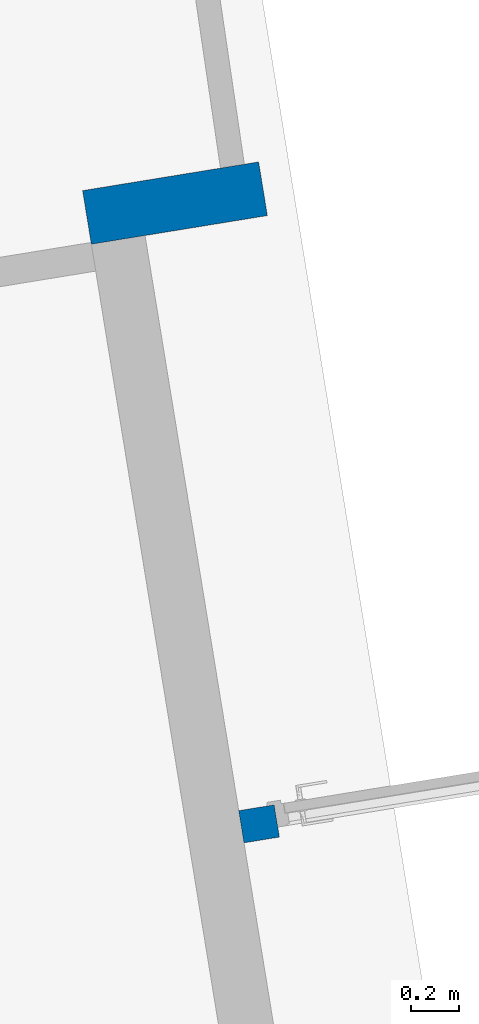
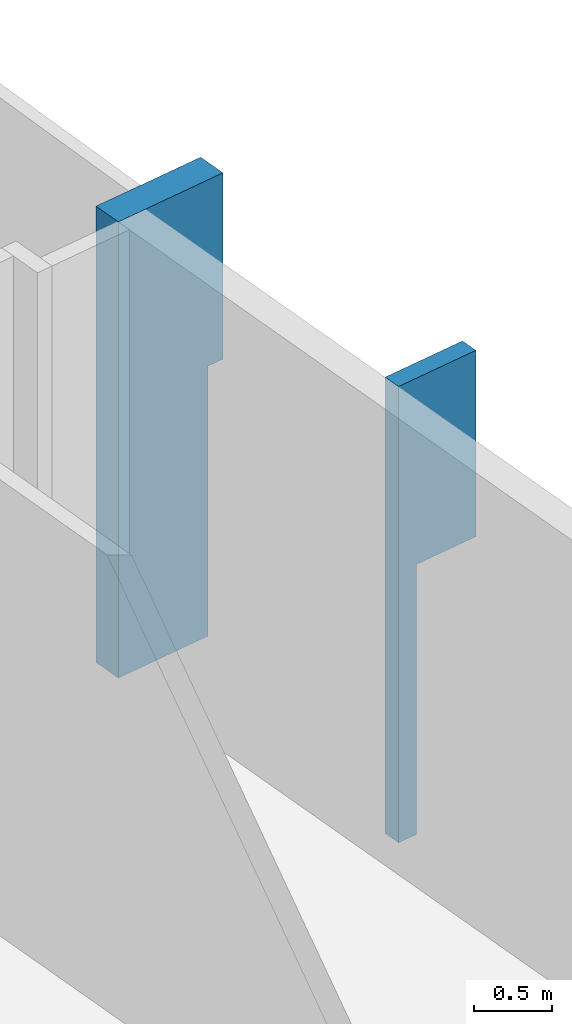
# One storey, part 16 of 18: 2 walls.
"""IFC2X3 building model written with IfcOpenShell, lengths in millimetres."""

from ifc_helpers import new_model, entity, si_unit, converted_unit, derived_unit, direction, frame, origin, origin_with_axes, place, context, subcontext, project, spatial, faceted_brep, material, layer, layer_set, type_object, element, save


model = new_model("IFC2X3")

# Units and contexts
model_context = context("Model", 3, precision=0.01, world=origin(), true_north=direction((6.12323399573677e-17, 1.0)))
plan_context = context("Plan", 3, precision=1e-05, world=origin_with_axes())
body_context = subcontext(model_context, "Body", "Model", "MODEL_VIEW")
ifc_project = project(units=[converted_unit("PLANEANGLEUNIT", "DEGREE", entity("IfcPositiveLengthMeasure", 0.0174532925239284), si_unit("PLANEANGLEUNIT", "RADIAN"), dimensions=[0, 0, 0, 0, 0, 0, 0]), si_unit("AREAUNIT", "SQUARE_METRE"), si_unit("LENGTHUNIT", "METRE", prefix="MILLI"), si_unit("MASSUNIT", "GRAM", prefix="KILO"), si_unit("POWERUNIT", "WATT"), si_unit("PRESSUREUNIT", "PASCAL", prefix="KILO"), si_unit("FORCEUNIT", "NEWTON", prefix="KILO"), si_unit("ELECTRICVOLTAGEUNIT", "VOLT"), si_unit("ELECTRICCURRENTUNIT", "AMPERE"), si_unit("THERMODYNAMICTEMPERATUREUNIT", "DEGREE_CELSIUS"), si_unit("TIMEUNIT", "SECOND"), si_unit("VOLUMEUNIT", "CUBIC_METRE"), derived_unit("LINEARVELOCITYUNIT", [(si_unit("LENGTHUNIT", "METRE"), 1), (si_unit("TIMEUNIT", "SECOND"), -1)]), derived_unit("VOLUMETRICFLOWRATEUNIT", [(si_unit("VOLUMEUNIT", "CUBIC_METRE"), 1), (si_unit("TIMEUNIT", "SECOND"), -1)]), derived_unit("THERMALTRANSMITTANCEUNIT", [(si_unit("POWERUNIT", "WATT"), 1), (si_unit("THERMODYNAMICTEMPERATUREUNIT", "KELVIN"), -1), (si_unit("AREAUNIT", "SQUARE_METRE"), -1)]), derived_unit("SOUNDPRESSUREUNIT", [(si_unit("PRESSUREUNIT", "PASCAL"), 1)])], contexts=[model_context, plan_context])

# Site, building, storey
site_placement = place(None, frame((-305029.896016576, -232111.759730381, 0.0), z_axis=(0.0, 0.0, 1.0), x_axis=(-0.160806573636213, 0.986985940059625, 0.0)))
site = spatial("IfcSite", under=ifc_project, at=site_placement, Name="Default", CompositionType="ELEMENT")
building_placement = place(site_placement, frame((0.0, 0.0, 0.0), z_axis=(0.0, 0.0, 1.0), x_axis=(1.0, -2.77555756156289e-17, 0.0)))
building = spatial("IfcBuilding", under=site, at=building_placement, Name="br001-a-200-1-0001", CompositionType="ELEMENT")
storey_placement = place(building_placement, frame((0.0, 0.0, 55500.0), z_axis=(0.0, 0.0, 1.0), x_axis=(1.0, -2.77555756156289e-17, 0.0)))
storey = spatial("IfcBuildingStorey", under=building, at=storey_placement, Name="H02-Nivå F-3,5 m", CompositionType="ELEMENT", Elevation=55500.0)

# Walls
ifc_material = material(Name="_NSW Standard")
ifc_layer_1 = layer(ifc_material, 225.0)
ifc_layer_set_1 = layer_set([ifc_layer_1], Name="Basic Wall:A242 - Standard 225")
wall_type_1 = type_object("IfcWallType", Name="Basic Wall:A242 - Standard 225", PredefinedType="STANDARD", material=ifc_layer_set_1)
wall_1_placement = place(storey_placement, frame((1178542.59858442, -739833.378367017, 0.0), z_axis=(0.0, 0.0, 1.0), x_axis=(2.77555756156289e-17, 1.0, 0.0)))
element("IfcWall", 1, at=wall_1_placement, inside=storey, type_object=wall_type_1, Name="Basic Wall:A242 - Standard 225", ObjectType="Basic Wall:A242 - Standard 225", context=body_context, shape_type="Brep", body=[
    faceted_brep([(5730.50000000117, -112.500000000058, 0.0), (5730.50000000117, -112.500000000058, 3550.00000000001), (5730.50000000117, 112.500000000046, 3550.00000000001), (5730.50000000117, 112.500000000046, 0.0), (4868.97886103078, 112.500000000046, 3550.00000000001), (4868.97886103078, 112.500000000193, 2100.00000000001), (4992.50000000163, 112.500000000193, 2100.00000000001), (4992.50000000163, 112.500000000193, 6.82121026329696e-13), (4868.97886103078, -112.499999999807, 2100.00000000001), (4868.97886103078, -112.500000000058, 3550.00000000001), (4992.50000000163, -112.499999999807, 6.82121026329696e-13), (4992.50000000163, -112.499999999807, 2100.00000000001)], [[[0, 1, 2, 3]], [[4, 5, 6, 7, 3, 2]], [[8, 9, 1, 0, 10, 11]], [[7, 10, 0, 3]], [[9, 4, 2, 1]], [[6, 11, 10, 7]], [[5, 8, 11, 6]], [[9, 8, 5, 4]]], orient=[[False], [False], [False], [False], [False], [False], [False], [False]]),
])
ifc_layer_2 = layer(ifc_material, 135.0)
ifc_layer_set_2 = layer_set([ifc_layer_2], Name="Basic Wall:A242 - Standard 136")
wall_type_2 = type_object("IfcWallType", Name="Basic Wall:A242 - Standard 136", PredefinedType="STANDARD", material=ifc_layer_set_2)
wall_2_placement = place(storey_placement, frame((1175950.59858442, -735827.878367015, 0.0), z_axis=(0.0, 0.0, 1.0), x_axis=(2.77555756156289e-17, 1.0, 0.0)))
element("IfcWall", 2, at=wall_2_placement, inside=storey, type_object=wall_type_2, Name="Basic Wall:A242 - Standard 136", ObjectType="Basic Wall:A242 - Standard 136", context=body_context, shape_type="Brep", body=[
    faceted_brep([(863.4788610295, -67.4999999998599, 2100.00000000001), (863.4788610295, -67.499999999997, 3550.00000000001), (1500.00000000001, -67.499999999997, 3550.00000000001), (1500.00000000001, -67.499999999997, 0.0), (1351.49999999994, -67.4999999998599, 6.82121026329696e-13), (1351.49999999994, -67.4999999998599, 2100.00000000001), (1500.00000000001, 67.499999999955, 3550.00000000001), (1500.00000000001, 67.499999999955, 0.0), (863.4788610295, 67.499999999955, 3550.00000000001), (863.4788610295, 67.5000000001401, 2100.00000000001), (1351.49999999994, 67.5000000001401, 2100.00000000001), (1351.49999999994, 67.5000000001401, 6.82121026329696e-13)], [[[0, 1, 2, 3, 4, 5]], [[3, 2, 6, 7]], [[8, 9, 10, 11, 7, 6]], [[11, 4, 3, 7]], [[1, 8, 6, 2]], [[10, 5, 4, 11]], [[9, 0, 5, 10]], [[9, 8, 1, 0]]], orient=[[False], [False], [False], [False], [False], [False], [False], [False]]),
])

save(model, "model.ifc")
